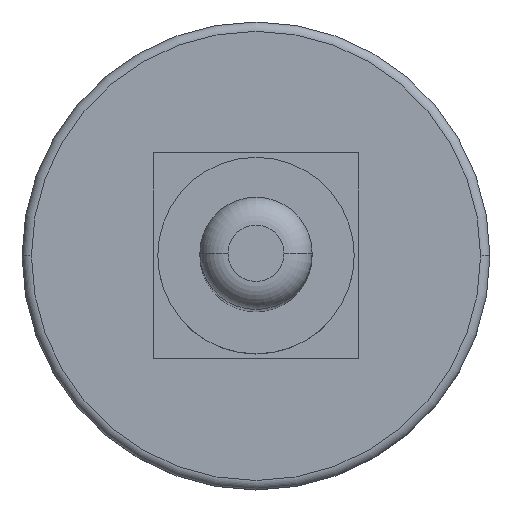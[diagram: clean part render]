
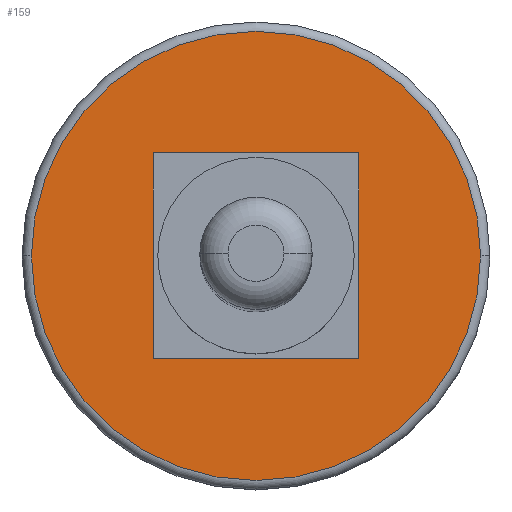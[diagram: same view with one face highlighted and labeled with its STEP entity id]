
A CAD part, top view. The second image highlights one B-rep face of the part: STEP entity #159.
In plain terms, the highlighted planar face has unit normal (0, 0, 1).
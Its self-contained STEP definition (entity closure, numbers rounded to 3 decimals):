
#11 = ORIENTED_EDGE ( 'NONE', *, *, #416, .F. ) ;
#35 = CARTESIAN_POINT ( 'NONE',  ( 11., 11., 9. ) ) ;
#44 = DIRECTION ( 'NONE',  ( 0., 0., 1. ) ) ;
#77 = VECTOR ( 'NONE', #145, 1000. ) ;
#92 = VECTOR ( 'NONE', #571, 1000. ) ;
#99 = DIRECTION ( 'NONE',  ( 1., 0., 0. ) ) ;
#110 = EDGE_CURVE ( 'NONE', #474, #118, #142, .T. ) ;
#111 = EDGE_CURVE ( 'NONE', #363, #359, #552, .T. ) ;
#113 = FACE_OUTER_BOUND ( 'NONE', #442, .T. ) ;
#117 = AXIS2_PLACEMENT_3D ( 'NONE', #427, #172, #168 ) ;
#118 = VERTEX_POINT ( 'NONE', #132 ) ;
#122 = ORIENTED_EDGE ( 'NONE', *, *, #110, .T. ) ;
#132 = CARTESIAN_POINT ( 'NONE',  ( 24., 0., 9. ) ) ;
#142 = CIRCLE ( 'NONE', #454, 24. ) ;
#145 = DIRECTION ( 'NONE',  ( -1., 0., 0. ) ) ;
#147 = DIRECTION ( 'NONE',  ( 0., 0., 1. ) ) ;
#149 = VERTEX_POINT ( 'NONE', #450 ) ;
#159 = ADVANCED_FACE ( 'NONE', ( #113, #568 ), #362, .T. ) ;
#168 = DIRECTION ( 'NONE',  ( 1., 0., 0. ) ) ;
#172 = DIRECTION ( 'NONE',  ( 0., 0., 1. ) ) ;
#173 = DIRECTION ( 'NONE',  ( 0., 1., 0. ) ) ;
#184 = DIRECTION ( 'NONE',  ( 1., 0., 0. ) ) ;
#218 = CARTESIAN_POINT ( 'NONE',  ( -11., 11., 9. ) ) ;
#234 = CARTESIAN_POINT ( 'NONE',  ( -11., 11., 9. ) ) ;
#267 = ORIENTED_EDGE ( 'NONE', *, *, #111, .F. ) ;
#276 = CARTESIAN_POINT ( 'NONE',  ( 0., 0., 9. ) ) ;
#277 = CIRCLE ( 'NONE', #117, 24. ) ;
#290 = DIRECTION ( 'NONE',  ( 1., 0., 0. ) ) ;
#292 = CARTESIAN_POINT ( 'NONE',  ( -11., -11., 9. ) ) ;
#339 = CARTESIAN_POINT ( 'NONE',  ( 0., 0., 9. ) ) ;
#344 = ORIENTED_EDGE ( 'NONE', *, *, #590, .F. ) ;
#349 = EDGE_LOOP ( 'NONE', ( #11, #491, #344, #267 ) ) ;
#351 = LINE ( 'NONE', #218, #92 ) ;
#357 = VECTOR ( 'NONE', #173, 1000. ) ;
#359 = VERTEX_POINT ( 'NONE', #431 ) ;
#362 = PLANE ( 'NONE',  #370 ) ;
#363 = VERTEX_POINT ( 'NONE', #35 ) ;
#370 = AXIS2_PLACEMENT_3D ( 'NONE', #339, #147, #290 ) ;
#392 = CARTESIAN_POINT ( 'NONE',  ( 11., 11., 9. ) ) ;
#408 = CARTESIAN_POINT ( 'NONE',  ( 11., -11., 9. ) ) ;
#416 = EDGE_CURVE ( 'NONE', #449, #363, #437, .T. ) ;
#418 = CARTESIAN_POINT ( 'NONE',  ( -24., 0., 9. ) ) ;
#424 = LINE ( 'NONE', #292, #478 ) ;
#427 = CARTESIAN_POINT ( 'NONE',  ( 0., 0., 9. ) ) ;
#431 = CARTESIAN_POINT ( 'NONE',  ( -11., 11., 9. ) ) ;
#437 = LINE ( 'NONE', #392, #357 ) ;
#442 = EDGE_LOOP ( 'NONE', ( #459, #122 ) ) ;
#449 = VERTEX_POINT ( 'NONE', #408 ) ;
#450 = CARTESIAN_POINT ( 'NONE',  ( -11., -11., 9. ) ) ;
#454 = AXIS2_PLACEMENT_3D ( 'NONE', #276, #44, #184 ) ;
#459 = ORIENTED_EDGE ( 'NONE', *, *, #597, .T. ) ;
#474 = VERTEX_POINT ( 'NONE', #418 ) ;
#478 = VECTOR ( 'NONE', #99, 1000. ) ;
#491 = ORIENTED_EDGE ( 'NONE', *, *, #531, .F. ) ;
#531 = EDGE_CURVE ( 'NONE', #149, #449, #424, .T. ) ;
#552 = LINE ( 'NONE', #234, #77 ) ;
#568 = FACE_BOUND ( 'NONE', #349, .T. ) ;
#571 = DIRECTION ( 'NONE',  ( 0., -1., 0. ) ) ;
#590 = EDGE_CURVE ( 'NONE', #359, #149, #351, .T. ) ;
#597 = EDGE_CURVE ( 'NONE', #118, #474, #277, .T. ) ;
